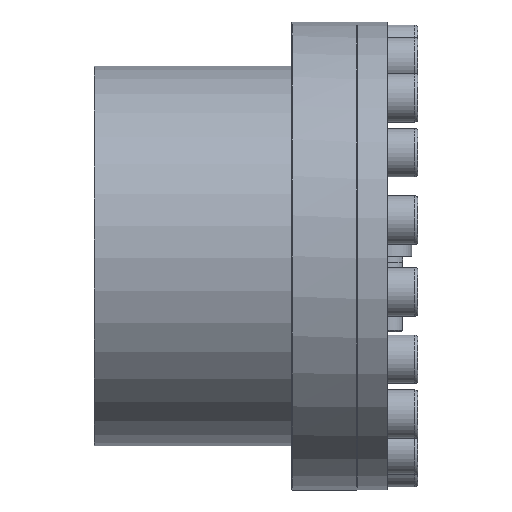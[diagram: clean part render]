
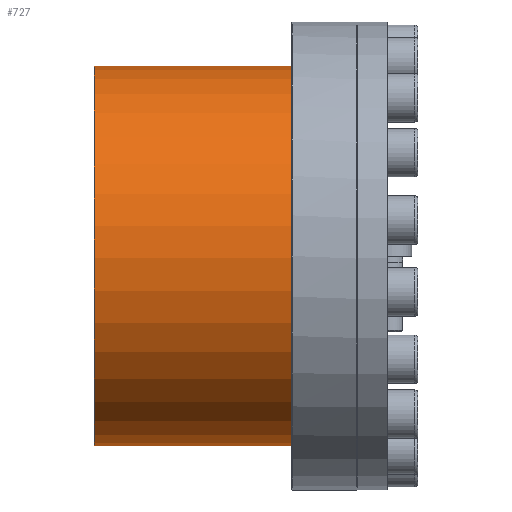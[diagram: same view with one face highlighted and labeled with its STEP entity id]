
A CAD part, left-side view. The second image highlights one B-rep face of the part: STEP entity #727.
In plain terms, the highlighted cylindrical face has radius 62.5 mm (diameter 125 mm), a partial arc.
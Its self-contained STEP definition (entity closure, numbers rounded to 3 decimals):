
#727 = ADVANCED_FACE( '', ( #1455 ), #1456, .T. );
#1455 = FACE_OUTER_BOUND( '', #2687, .T. );
#1456 = CYLINDRICAL_SURFACE( '', #2688, 62.5 );
#2687 = EDGE_LOOP( '', ( #4076, #4077, #4078, #4079 ) );
#2688 = AXIS2_PLACEMENT_3D( '', #4080, #4081, #4082 );
#4076 = ORIENTED_EDGE( '', *, *, #6713, .F. );
#4077 = ORIENTED_EDGE( '', *, *, #6754, .F. );
#4078 = ORIENTED_EDGE( '', *, *, #6724, .F. );
#4079 = ORIENTED_EDGE( '', *, *, #6774, .T. );
#4080 = CARTESIAN_POINT( '', ( 0., -60., 0. ) );
#4081 = DIRECTION( '', ( 0., 1., 0. ) );
#4082 = DIRECTION( '', ( 0., 0., -1. ) );
#6713 = EDGE_CURVE( '', #7468, #7470, #7471, .F. );
#6724 = EDGE_CURVE( '', #7484, #7486, #7487, .T. );
#6754 = EDGE_CURVE( '', #7486, #7468, #7540, .T. );
#6774 = EDGE_CURVE( '', #7484, #7470, #7579, .T. );
#7468 = VERTEX_POINT( '', #8623 );
#7470 = VERTEX_POINT( '', #8626 );
#7471 = LINE( '', #8627, #8628 );
#7484 = VERTEX_POINT( '', #8650 );
#7486 = VERTEX_POINT( '', #8653 );
#7487 = LINE( '', #8654, #8655 );
#7540 = CIRCLE( '', #8715, 62.5 );
#7579 = CIRCLE( '', #8754, 62.5 );
#8623 = CARTESIAN_POINT( '', ( 12.607, 31.5, 61.215 ) );
#8626 = CARTESIAN_POINT( '', ( 12.607, 96.5, 61.215 ) );
#8627 = CARTESIAN_POINT( '', ( 12.607, -60., 61.215 ) );
#8628 = VECTOR( '', #10753, 1000. );
#8650 = CARTESIAN_POINT( '', ( 9.09, 96.5, 61.835 ) );
#8653 = CARTESIAN_POINT( '', ( 9.09, 31.5, 61.835 ) );
#8654 = CARTESIAN_POINT( '', ( 9.09, -60., 61.835 ) );
#8655 = VECTOR( '', #10770, 1000. );
#8715 = AXIS2_PLACEMENT_3D( '', #10847, #10848, #10849 );
#8754 = AXIS2_PLACEMENT_3D( '', #10907, #10908, #10909 );
#10753 = DIRECTION( '', ( 0., -1., 0. ) );
#10770 = DIRECTION( '', ( 0., -1., 0. ) );
#10847 = CARTESIAN_POINT( '', ( 0., 31.5, 0. ) );
#10848 = DIRECTION( '', ( 0., -1., 0. ) );
#10849 = DIRECTION( '', ( 0., 0., -1. ) );
#10907 = CARTESIAN_POINT( '', ( 0., 96.5, 0. ) );
#10908 = DIRECTION( '', ( 0., -1., 0. ) );
#10909 = DIRECTION( '', ( 0., 0., -1. ) );
